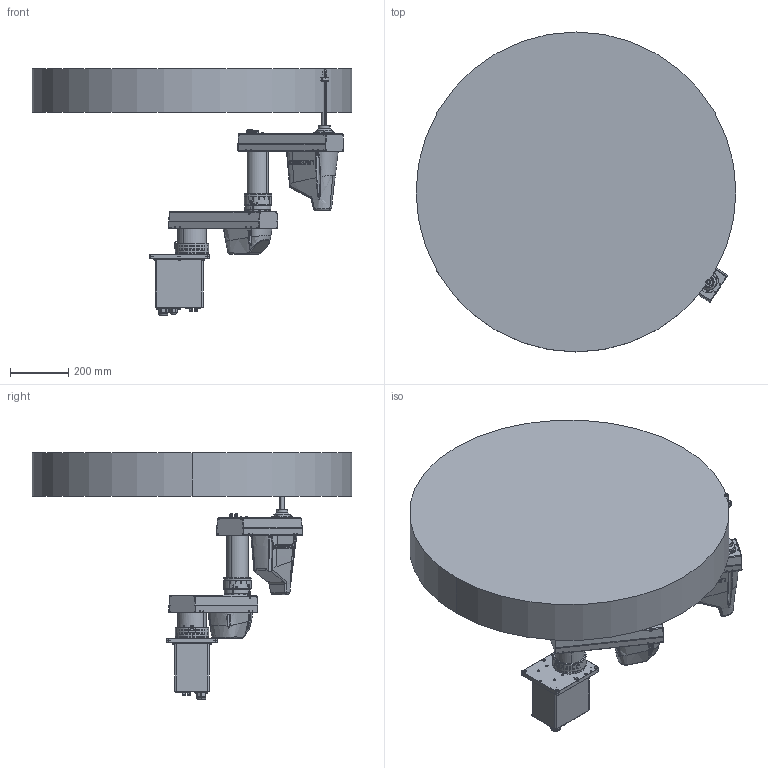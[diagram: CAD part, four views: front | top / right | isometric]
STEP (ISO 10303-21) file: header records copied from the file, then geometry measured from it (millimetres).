
FILE_DESCRIPTION (( 'STEP AP214' ), '1' );
FILE_NAME ('ST5-R550 衄LOGO湍堍雄毓峓2017.STEP', '2024-01-26T04:26:03', ( '' ), ( '' ), 'SwSTEP 2.0', 'SolidWorks 2017', '' );
FILE_SCHEMA (( 'AUTOMOTIVE_DESIGN' ));
Length unit declared in the file: millimetre
Products named in the file (6): ST5-R550  衄LOGO湍堍雄毓峓2017; 葩璃 ST5-R550-03   苤旋窒煦ㄗ衄logoㄘ^ST5-R550  衄LOGO湍堍雄毓峓2017; 复件 ST5-R550运动范围^ST5-R550  有LOGO带运动范围2017; 复件 ST5-R550-01   J1部分^ST5-R550  有LOGO带运动范围2017; 复件 丝杆^ST5-R550  有LOGO带运动范围2017; 复件 ST5-R550-02   J2部分^ST5-R550  有LOGO带运动范围2017
Assembly tree (5 placements, depth 2):
  ST5-R550  衄LOGO湍堍雄毓峓2017
    复件 ST5-R550-01   J1部分^ST5-R550  有LOGO带运动范围2017
    复件 ST5-R550-02   J2部分^ST5-R550  有LOGO带运动范围2017
    葩璃 ST5-R550-03   苤旋窒煦ㄗ衄logoㄘ^ST5-R550  衄LOGO湍堍雄毓峓2017
    复件 丝杆^ST5-R550  有LOGO带运动范围2017
    复件 ST5-R550运动范围^ST5-R550  有LOGO带运动范围2017
Bounding box: 1100 x 1100 x 848.5 mm (x, y, z)
Volume: 154743261 mm3; surface area: 3521107.1 mm2
Topology: 56 solids, 112 shells, 5448 faces, 13485 edges, 8595 vertices
Faces by surface type: plane 2033, cylinder 1624, cone 1008, bspline 669, torus 110, sphere 4
Entity records: 232400 total; most frequent: CARTESIAN_POINT 106090, ORIENTED_EDGE 26530, DIRECTION 25059, EDGE_CURVE 13265, AXIS2_PLACEMENT_3D 9333, VERTEX_POINT 8591, LINE 6393, VECTOR 6393
